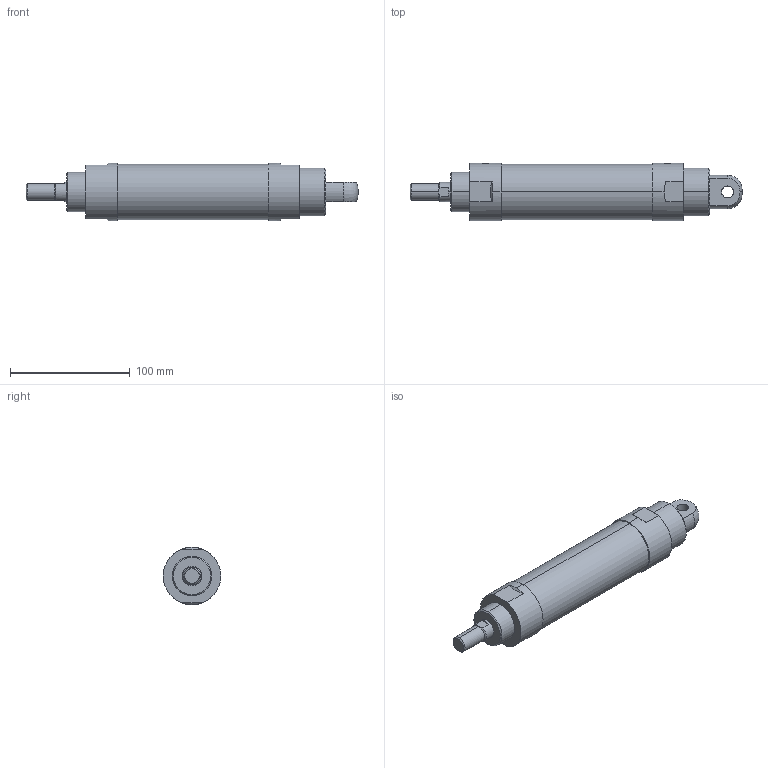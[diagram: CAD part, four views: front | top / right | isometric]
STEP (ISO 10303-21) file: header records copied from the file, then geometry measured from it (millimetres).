
FILE_DESCRIPTION (( 'STEP AP203' ), '1' );
FILE_NAME ('J#2-40-75-C.STEP', '2016-03-08T07:55:42', ( '' ), ( '' ), 'SwSTEP 2.0', 'SolidWorks 2014', '' );
FILE_SCHEMA (( 'CONFIG_CONTROL_DESIGN' ));
Length unit declared in the file: millimetre
Products named in the file (1): J#2-40-75-C
Bounding box: 277 x 48 x 48 mm (x, y, z)
Volume: 355431.1 mm3; surface area: 39083.6 mm2
Topology: 1 solids, 1 shells, 59 faces, 138 edges, 85 vertices
Faces by surface type: cylinder 22, plane 20, cone 15, torus 2
Entity records: 1988 total; most frequent: CARTESIAN_POINT 566, DIRECTION 293, ORIENTED_EDGE 268, EDGE_CURVE 134, AXIS2_PLACEMENT_3D 118, VERTEX_POINT 85, EDGE_LOOP 69, FACE_OUTER_BOUND 59
